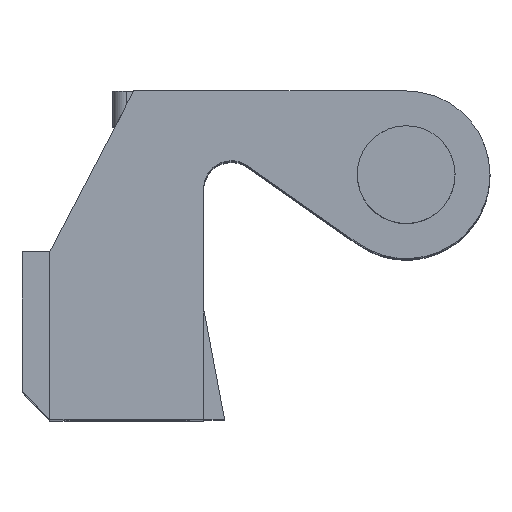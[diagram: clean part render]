
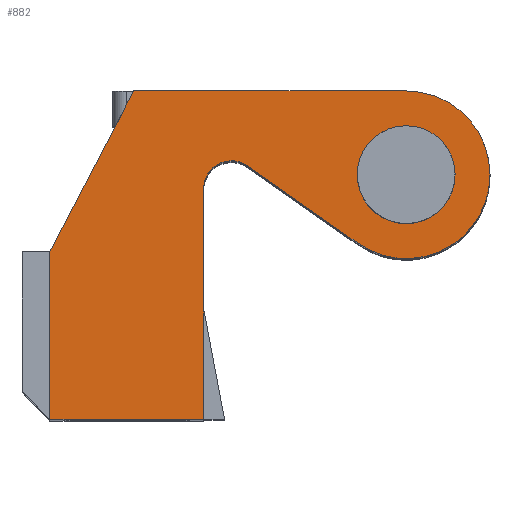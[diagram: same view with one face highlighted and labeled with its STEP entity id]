
A CAD part, top view. The second image highlights one B-rep face of the part: STEP entity #882.
In plain terms, the highlighted planar face has unit normal (0, 0, 1).
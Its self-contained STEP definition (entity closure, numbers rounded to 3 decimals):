
#8 = DIRECTION ( 'NONE',  ( -0.818, 0.575, 0. ) ) ;
#20 = EDGE_CURVE ( 'NONE', #1307, #758, #3313, .T. ) ;
#40 = VERTEX_POINT ( 'NONE', #3590 ) ;
#59 = VECTOR ( 'NONE', #3373, 1000. ) ;
#260 = EDGE_CURVE ( 'NONE', #2428, #1990, #5230, .T. ) ;
#274 = ORIENTED_EDGE ( 'NONE', *, *, #5072, .F. ) ;
#478 = VECTOR ( 'NONE', #3763, 1000. ) ;
#536 = CARTESIAN_POINT ( 'NONE',  ( -25.5, 0., 75. ) ) ;
#652 = CARTESIAN_POINT ( 'NONE',  ( 0., 0., 75. ) ) ;
#672 = DIRECTION ( 'NONE',  ( 0., 0., 1. ) ) ;
#682 = ORIENTED_EDGE ( 'NONE', *, *, #3928, .T. ) ;
#711 = CIRCLE ( 'NONE', #3157, 2. ) ;
#758 = VERTEX_POINT ( 'NONE', #2556 ) ;
#880 = DIRECTION ( 'NONE',  ( 0., 0., 1. ) ) ;
#882 = ADVANCED_FACE ( 'NONE', ( #1305, #3339 ), #1011, .T. ) ;
#894 = VECTOR ( 'NONE', #8, 1000. ) ;
#913 = CARTESIAN_POINT ( 'NONE',  ( -19.5, 6., 75. ) ) ;
#1011 = PLANE ( 'NONE',  #4433 ) ;
#1050 = DIRECTION ( 'NONE',  ( 1., 0., 0. ) ) ;
#1153 = VERTEX_POINT ( 'NONE', #4557 ) ;
#1174 = DIRECTION ( 'NONE',  ( 0., 0., 1. ) ) ;
#1188 = DIRECTION ( 'NONE',  ( 1., 0., 0. ) ) ;
#1305 = FACE_OUTER_BOUND ( 'NONE', #2684, .T. ) ;
#1307 = VERTEX_POINT ( 'NONE', #4498 ) ;
#1447 = ORIENTED_EDGE ( 'NONE', *, *, #5107, .F. ) ;
#1516 = EDGE_CURVE ( 'NONE', #758, #4237, #3732, .T. ) ;
#1732 = ORIENTED_EDGE ( 'NONE', *, *, #4379, .T. ) ;
#1870 = DIRECTION ( 'NONE',  ( 0., 0., 1. ) ) ;
#1977 = CIRCLE ( 'NONE', #4828, 6. ) ;
#1990 = VERTEX_POINT ( 'NONE', #913 ) ;
#1996 = LINE ( 'NONE', #2824, #894 ) ;
#2130 = EDGE_CURVE ( 'NONE', #1990, #3148, #4624, .T. ) ;
#2300 = CARTESIAN_POINT ( 'NONE',  ( -17.788, 9.281, 75. ) ) ;
#2357 = DIRECTION ( 'NONE',  ( 1., 0., 0. ) ) ;
#2428 = VERTEX_POINT ( 'NONE', #4502 ) ;
#2529 = CARTESIAN_POINT ( 'NONE',  ( -14.5, 0., 75. ) ) ;
#2556 = CARTESIAN_POINT ( 'NONE',  ( -14.5, -17.5, 75. ) ) ;
#2684 = EDGE_LOOP ( 'NONE', ( #274, #4646, #682, #2911, #4613, #4942, #1732, #3341, #3886 ) ) ;
#2689 = DIRECTION ( 'NONE',  ( -0.463, -0.887, 0. ) ) ;
#2751 = CIRCLE ( 'NONE', #3418, 3.5 ) ;
#2753 = CIRCLE ( 'NONE', #4856, 3.5 ) ;
#2814 = VERTEX_POINT ( 'NONE', #3381 ) ;
#2824 = CARTESIAN_POINT ( 'NONE',  ( -3.447, -4.911, 75. ) ) ;
#2833 = DIRECTION ( 'NONE',  ( 1., 0., 0. ) ) ;
#2879 = CARTESIAN_POINT ( 'NONE',  ( -14.5, -1., 75. ) ) ;
#2911 = ORIENTED_EDGE ( 'NONE', *, *, #5125, .T. ) ;
#3031 = LINE ( 'NONE', #536, #59 ) ;
#3104 = CARTESIAN_POINT ( 'NONE',  ( 0., 0., 75. ) ) ;
#3148 = VERTEX_POINT ( 'NONE', #4418 ) ;
#3149 = EDGE_CURVE ( 'NONE', #2814, #40, #2753, .T. ) ;
#3157 = AXIS2_PLACEMENT_3D ( 'NONE', #4299, #1870, #4718 ) ;
#3202 = VECTOR ( 'NONE', #1188, 1000. ) ;
#3311 = CARTESIAN_POINT ( 'NONE',  ( 0., 0., 75. ) ) ;
#3313 = LINE ( 'NONE', #4438, #3202 ) ;
#3339 = FACE_BOUND ( 'NONE', #3392, .T. ) ;
#3341 = ORIENTED_EDGE ( 'NONE', *, *, #20, .T. ) ;
#3373 = DIRECTION ( 'NONE',  ( 0., -1., 0. ) ) ;
#3381 = CARTESIAN_POINT ( 'NONE',  ( 3.5, 0., 75. ) ) ;
#3392 = EDGE_LOOP ( 'NONE', ( #1447, #4982 ) ) ;
#3418 = AXIS2_PLACEMENT_3D ( 'NONE', #652, #3492, #1050 ) ;
#3492 = DIRECTION ( 'NONE',  ( 0., 0., 1. ) ) ;
#3515 = DIRECTION ( 'NONE',  ( 1., 0., 0. ) ) ;
#3590 = CARTESIAN_POINT ( 'NONE',  ( -3.5, 0., 75. ) ) ;
#3604 = CARTESIAN_POINT ( 'NONE',  ( 0., 0., 75. ) ) ;
#3714 = VERTEX_POINT ( 'NONE', #4268 ) ;
#3732 = LINE ( 'NONE', #2529, #478 ) ;
#3735 = DIRECTION ( 'NONE',  ( 1., 0., 0. ) ) ;
#3763 = DIRECTION ( 'NONE',  ( 0., 1., 0. ) ) ;
#3886 = ORIENTED_EDGE ( 'NONE', *, *, #1516, .T. ) ;
#3928 = EDGE_CURVE ( 'NONE', #3714, #1153, #1977, .T. ) ;
#3984 = AXIS2_PLACEMENT_3D ( 'NONE', #3104, #672, #3515 ) ;
#4127 = VECTOR ( 'NONE', #4910, 1000. ) ;
#4237 = VERTEX_POINT ( 'NONE', #2879 ) ;
#4268 = CARTESIAN_POINT ( 'NONE',  ( -3.447, -4.911, 75. ) ) ;
#4299 = CARTESIAN_POINT ( 'NONE',  ( -12.5, -1., 75. ) ) ;
#4379 = EDGE_CURVE ( 'NONE', #3148, #1307, #3031, .T. ) ;
#4387 = DIRECTION ( 'NONE',  ( 0., 0., 1. ) ) ;
#4418 = CARTESIAN_POINT ( 'NONE',  ( -25.5, -5.5, 75. ) ) ;
#4433 = AXIS2_PLACEMENT_3D ( 'NONE', #4809, #4387, #2357 ) ;
#4438 = CARTESIAN_POINT ( 'NONE',  ( 0., -17.5, 75. ) ) ;
#4498 = CARTESIAN_POINT ( 'NONE',  ( -25.5, -17.5, 75. ) ) ;
#4502 = CARTESIAN_POINT ( 'NONE',  ( 0., 6., 75. ) ) ;
#4531 = CIRCLE ( 'NONE', #3984, 6. ) ;
#4557 = CARTESIAN_POINT ( 'NONE',  ( 6., 0., 75. ) ) ;
#4613 = ORIENTED_EDGE ( 'NONE', *, *, #260, .T. ) ;
#4624 = LINE ( 'NONE', #2300, #4761 ) ;
#4646 = ORIENTED_EDGE ( 'NONE', *, *, #4732, .F. ) ;
#4647 = VERTEX_POINT ( 'NONE', #5244 ) ;
#4718 = DIRECTION ( 'NONE',  ( 1., 0., 0. ) ) ;
#4732 = EDGE_CURVE ( 'NONE', #3714, #4647, #1996, .T. ) ;
#4761 = VECTOR ( 'NONE', #2689, 1000. ) ;
#4809 = CARTESIAN_POINT ( 'NONE',  ( 0., 0., 75. ) ) ;
#4828 = AXIS2_PLACEMENT_3D ( 'NONE', #3311, #880, #3735 ) ;
#4856 = AXIS2_PLACEMENT_3D ( 'NONE', #3604, #1174, #2833 ) ;
#4910 = DIRECTION ( 'NONE',  ( -1., 0., 0. ) ) ;
#4942 = ORIENTED_EDGE ( 'NONE', *, *, #2130, .T. ) ;
#4982 = ORIENTED_EDGE ( 'NONE', *, *, #3149, .F. ) ;
#5072 = EDGE_CURVE ( 'NONE', #4647, #4237, #711, .T. ) ;
#5107 = EDGE_CURVE ( 'NONE', #40, #2814, #2751, .T. ) ;
#5125 = EDGE_CURVE ( 'NONE', #1153, #2428, #4531, .T. ) ;
#5230 = LINE ( 'NONE', #5280, #4127 ) ;
#5244 = CARTESIAN_POINT ( 'NONE',  ( -11.351, 0.637, 75. ) ) ;
#5280 = CARTESIAN_POINT ( 'NONE',  ( 0., 6., 75. ) ) ;
